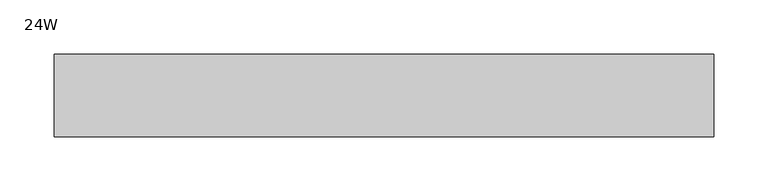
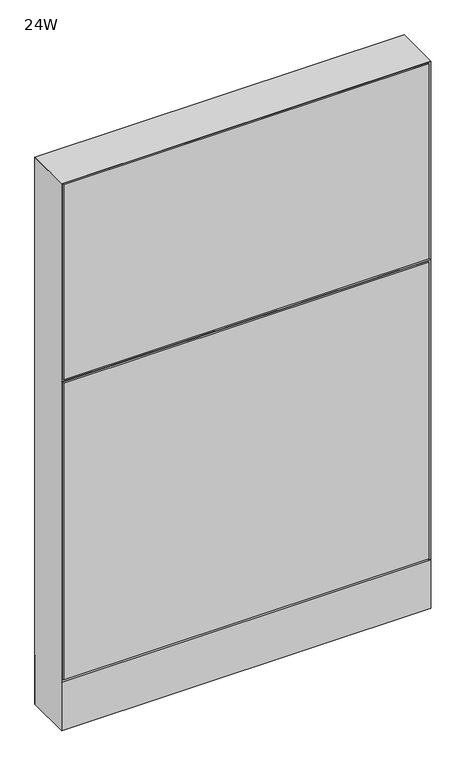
"""IFC4 building model written with IfcOpenShell, lengths in millimetres: furniture geometry, Steelcase - Montage - Frame - 38H - Enhanced Monolithic - Base Cavity : 24W."""

from ifc_helpers import new_model, si_unit, point, frame, frame_2d, origin, origin_with_axes, place, context, project, spatial, polyline, circle_curve, trimmed, segment, composite_curve, outline, extrude, faceted_brep, source, transform, mapped, element, save


def furniture_24w_0a600c24(model_context):
    return source(origin(), model_context, "Body", "SolidModel", [
        extrude(outline(polyline([(3.175, 31.7500194), (3.175, 38.1000194), (606.425, 38.1000194), (606.425, 31.7500194), (3.175, 31.7500194)])), frame((0.0, 0.0, 92.075), z_axis=(0.0, 0.0, 1.0), x_axis=(1.0, 0.0, 0.0)), (0.0, 0.0, 1.0), 863.6),
        faceted_brep([(0.0, -38.1026297, 612.775), (609.6, -38.1026297, 612.775), (603.2500047, -31.7526299, 619.1249997), (6.3499917, -31.7526299, 619.1249997), (6.3499917, -31.7526299, 606.4250003), (603.2500047, -31.7526299, 606.4250003)], [[[0, 1, 2, 3]], [[1, 0, 4, 5]], [[3, 2, 5, 4]], [[0, 3, 4]], [[2, 1, 5]]]),
        extrude(outline(polyline([(3.175, -31.7500194), (606.425, -31.7500194), (606.425, -38.1000194), (3.175, -38.1000194), (3.175, -31.7500194)])), frame((0.0, 0.0, 92.075), z_axis=(0.0, 0.0, 1.0), x_axis=(1.0, 0.0, 0.0)), (0.0, 0.0, 1.0), 517.525),
        extrude(outline(polyline([(3.175, -31.7500194), (606.425, -31.7500194), (606.425, -38.1000194), (3.175, -38.1000194), (3.175, -31.7500194)])), frame((0.0, 0.0, 615.95), z_axis=(0.0, 0.0, 1.0), x_axis=(1.0, 0.0, 0.0)), (0.0, 0.0, 1.0), 339.725),
        extrude(outline(polyline([(6.350003, -31.7499985), (603.249997, -31.7499985), (609.6, -38.1000015), (0.0, -38.1000015), (6.350003, -31.7499985)])), frame((0.0, 0.0, 4.064), z_axis=(0.0, 0.0, 1.0), x_axis=(1.0, 0.0, 0.0)), (0.0, 0.0, 1.0), 84.835997),
        extrude(outline(polyline([(6.3500002, 31.7500017), (0.0, 38.1000015), (609.6, 38.1000015), (603.2500002, 31.7500017), (6.3500002, 31.7500017)])), frame((0.0, 0.0, 4.064), z_axis=(0.0, 0.0, 1.0), x_axis=(1.0, 0.0, 0.0)), (0.0, 0.0, 1.0), 84.835997),
        faceted_brep([(609.6, -38.1000015, 958.85), (0.0, -38.1000015, 958.85), (6.3500484, -31.749953, 952.4999516), (603.2499516, -31.749953, 952.4999516), (6.3500484, 31.749953, 952.4999516), (603.2499516, 31.749953, 952.4999516), (0.0, 38.1000015, 958.85), (609.6, 38.1000015, 958.85)], [[[0, 1, 2, 3]], [[3, 2, 4, 5]], [[6, 7, 5, 4]], [[1, 0, 7, 6]], [[2, 1, 6, 4]], [[0, 3, 5, 7]]]),
        extrude(outline(composite_curve([segment(trimmed(circle_curve(frame_2d((44.45, 0.0)), 15.24), [point((29.21, 0.0))], [point((59.69, 0.0))], False, "CARTESIAN"), True, "CONTINUOUS"), segment(trimmed(circle_curve(frame_2d((44.45, 0.0)), 15.24), [point((59.69, 0.0))], [point((29.21, 0.0))], False, "CARTESIAN"), True, "CONTINUOUS")], self_intersect=False)), origin_with_axes(), (0.0, 0.0, 1.0), 4.064),
        extrude(outline(composite_curve([segment(trimmed(circle_curve(frame_2d((565.15, 0.0)), 15.24), [point((549.91, 0.0))], [point((580.39, 0.0))], False, "CARTESIAN"), True, "CONTINUOUS"), segment(trimmed(circle_curve(frame_2d((565.15, 0.0)), 15.24), [point((580.39, 0.0))], [point((549.91, 0.0))], False, "CARTESIAN"), True, "CONTINUOUS")], self_intersect=False)), origin_with_axes(), (0.0, 0.0, 1.0), 4.064),
        faceted_brep([(609.6, -38.1000106, 4.064), (609.6, 38.1000015, 4.064), (609.6, 38.1000015, 958.85), (609.6, -38.1000106, 958.8499637), (0.0, 38.1000015, 4.064), (0.0, -38.1000015, 4.064), (0.0, -38.1000015, 958.85), (0.0, 38.1000015, 958.85), (603.2499879, 31.7500017, 606.425), (6.35, 31.7500017, 606.425), (6.3499998, 31.7500017, 619.125), (603.2499879, 31.7500017, 619.125), (6.35, -31.7499985, 619.125), (603.2499879, -31.7499985, 619.125), (6.350003, -31.7499985, 606.425), (603.2499879, -31.7499985, 606.425), (6.35, 31.7500015, 4.064), (6.35, -31.7500015, 4.064), (603.2499879, 31.7499894, 4.064), (603.2499879, -31.7499985, 4.064), (6.35, 31.7500015, 952.5), (6.35, -31.7500015, 952.5), (603.2499879, -31.7499985, 952.4999516), (603.2499879, 31.7499896, 952.4999516)], [[[0, 1, 2, 3]], [[4, 5, 6, 7]], [[8, 9, 10, 11]], [[11, 10, 12, 13]], [[13, 12, 14, 15]], [[9, 8, 15, 14]], [[16, 17, 5, 4]], [[18, 1, 0, 19]], [[16, 4, 7, 20, 10, 9]], [[5, 17, 14, 12, 21, 6]], [[17, 16, 9, 14]], [[12, 10, 20, 21]], [[18, 19, 15, 8]], [[11, 13, 22, 23]], [[19, 0, 3, 22, 13, 15]], [[1, 18, 8, 11, 23, 2]], [[7, 6, 21, 20]], [[3, 2, 23, 22]]]),
    ])


if __name__ == "__main__":
    model = new_model("IFC4")
    model_context = context("Model", 3, world=origin())
    ifc_project = project(units=[si_unit("LENGTHUNIT", "METRE", prefix="MILLI")], contexts=[model_context])
    site = spatial("IfcSite", under=ifc_project)
    building = spatial("IfcBuilding", under=site)
    placement = place(None, origin())
    furniture_24w_shape = furniture_24w_0a600c24(model_context)
    element("IfcFurniture", 1, ObjectType="Steelcase - Montage - Frame - 38H - Enhanced Monolithic - Base Cavity : 24W", at=placement, inside=building, context=model_context, shape_type="MappedRepresentation", body=[
        mapped(furniture_24w_shape, transform((0.0, 0.0, 0.0), x_axis=(1.0, 0.0, 0.0), y_axis=(0.0, 1.0, 0.0), z_axis=(0.0, 0.0, 1.0))),
    ])
    save(model, "model.ifc")
